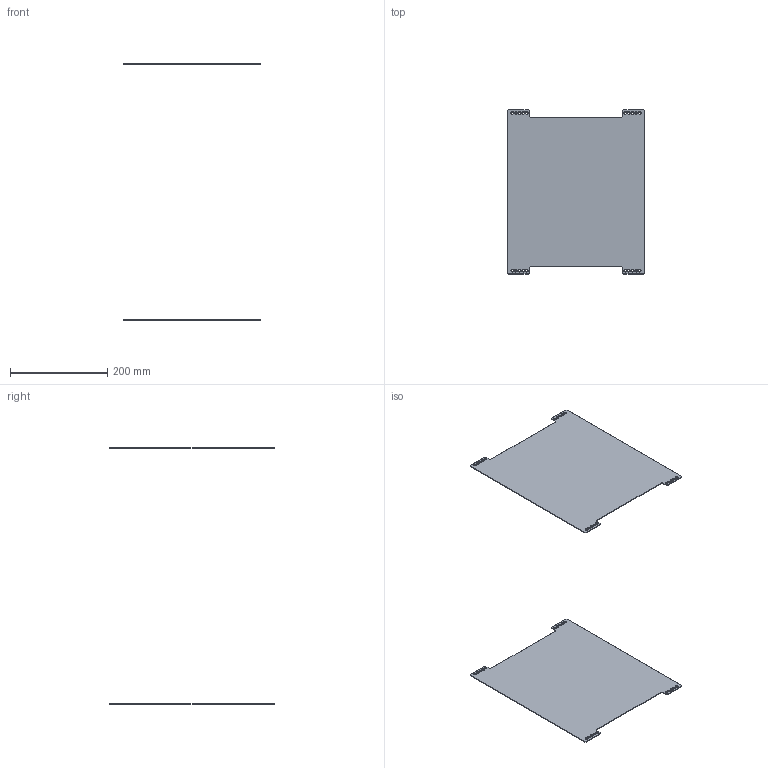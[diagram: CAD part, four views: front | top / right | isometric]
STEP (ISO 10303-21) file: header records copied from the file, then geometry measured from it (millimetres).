
FILE_DESCRIPTION(('CAx-IF Rec.Pracs.---Model Styling and Organization---1.2---2011-12-15','CAx-IF Rec.Pracs.---Geometric and Assembly Validation Properties---4.1---2014-06-16','CAx-IF Rec.Pracs.---PMI Polyline Presentation---2.0---2013-05-24'),'2;1');
FILE_NAME('R5SVS350.stp','2021-05-06T02:37:15+03:00',(''),(''),'STEP Interface 4.4 by CT CoreTechnologie','3D_Evolution4.4 by CT CoreTechnologie','');
FILE_SCHEMA(('AUTOMOTIVE_DESIGN { 1 0 10303 214 1 1 1 1 }'));
Length unit declared in the file: millimetre
Products named in the file (2): R5SVS350; RB.0488.00.00.1_-10
Assembly tree (2 placements, depth 2):
  R5SVS350
    RB.0488.00.00.1_-10  x2
Bounding box: 283 x 338 x 529 mm (x, y, z)
Surface area: 362423.9 mm2 (no closed solid volume)
Topology: 0 solids, 2 shells, 132 faces, 384 edges, 256 vertices
Faces by surface type: cylinder 80, plane 52
Entity records: 2389 total; most frequent: DIRECTION 410, CARTESIAN_POINT 389, ORIENTED_EDGE 384, EDGE_CURVE 192, AXIS2_PLACEMENT_3D 149, VERTEX_POINT 128, VECTOR 112, LINE 112
